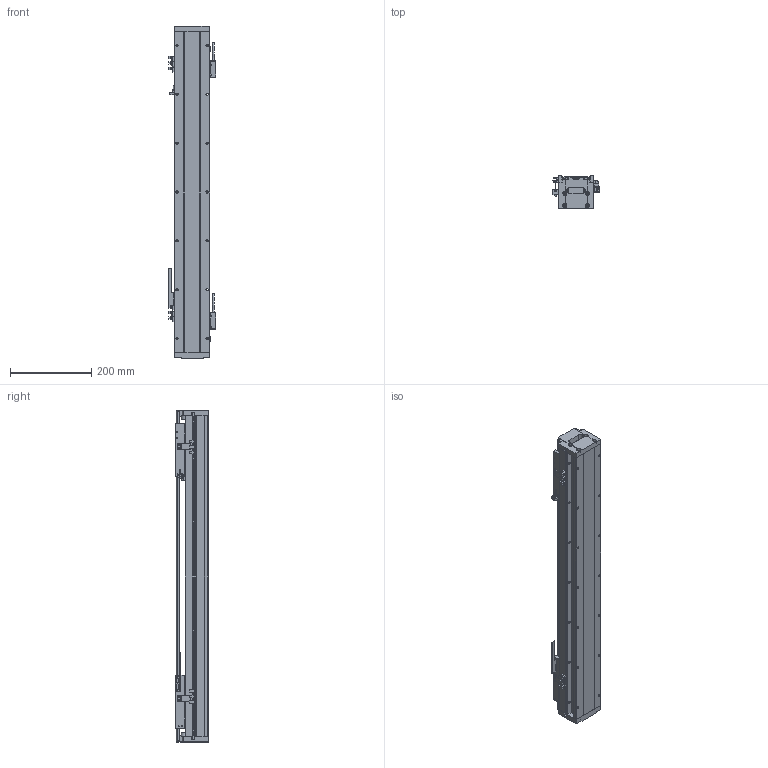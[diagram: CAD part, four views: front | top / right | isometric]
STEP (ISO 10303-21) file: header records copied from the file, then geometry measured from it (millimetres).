
FILE_DESCRIPTION (( 'STEP AP214' ), '1' );
FILE_NAME ('STC086-A-P-0618-2F105-MB-010-0.3.STEP', '2023-02-17T02:57:13', ( '' ), ( '' ), 'SwSTEP 2.0', 'SolidWorks 2018', '' );
FILE_SCHEMA (( 'AUTOMOTIVE_DESIGN' ));
Length unit declared in the file: millimetre
Products named in the file (62): 086-Lxxxx菁釱; STK013-01（磁栅压块）; STK0112-01（感应片）(默认); 賑輸SRS12M; SF-202NA-W（光电开关）-1; 蝶菜17x14x10; SKT0112-02（线缆固定件）; HC-U-02-Lxxx棠掑喜; LMD-2-R001-V5-L0.3-C0-F00（磁栅编码器）-1; STK0086-001（086读头固定块）; 086-Lxxxx裔啣; SE040隅赽; 絳寢SRS12M+xxxxL-G10; STK0095-001（多动子感应片）; STK0066-001（086端盖）; 086-SE1-040-S賑怢; STC086-A-P-0618-2F105-MB-010-0.3; SL-205NA-W（光电开关）; STK080-F105賑怢蚾饜极-1; STK080-F105賑怢蚾饜极
Assembly tree (44 placements, depth 3):
  086-Lxxxx菁釱
  STK013-01（磁栅压块）
  賑輸SRS12M
  SF-202NA-W（光电开关）-1
  蝶菜17x14x10
Bounding box: 115.7 x 81 x 816 mm (x, y, z)
Volume: 2957149.7 mm3; surface area: 917168.9 mm2
Topology: 42 solids, 42 shells, 3243 faces, 8814 edges, 5596 vertices
Faces by surface type: plane 1656, cylinder 1244, cone 289, torus 24, bspline 22, sphere 8
Entity records: 53618 total; most frequent: CARTESIAN_POINT 11045, ORIENTED_EDGE 8638, DIRECTION 8445, EDGE_CURVE 4319, AXIS2_PLACEMENT_3D 2869, VERTEX_POINT 2823, LINE 2707, VECTOR 2707
